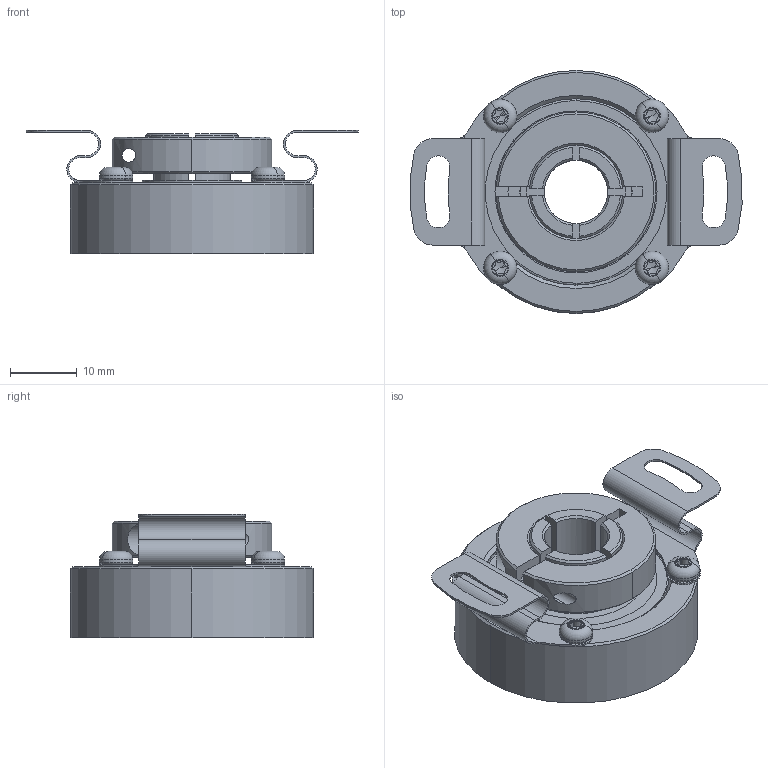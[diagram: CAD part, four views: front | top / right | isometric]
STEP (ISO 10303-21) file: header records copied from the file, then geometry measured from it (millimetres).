
FILE_DESCRIPTION (( 'STEP AP214' ), '1' );
FILE_NAME ('Drawing-UCD-VSS0-Q3A-N.STEP', '2016-10-25T12:01:08', ( '' ), ( '' ), 'SwSTEP 2.0', 'SolidWorks 2015', '' );
FILE_SCHEMA (( 'AUTOMOTIVE_DESIGN' ));
Length unit declared in the file: millimetre
Products named in the file (1): Drawing-UCD-VSS0-Q3A-N
Bounding box: 49.85 x 36.5 x 18.5 mm (x, y, z)
Volume: 10497.8 mm3; surface area: 14533.8 mm2
Topology: 22 solids, 22 shells, 534 faces, 1374 edges, 864 vertices
Faces by surface type: cylinder 195, plane 125, cone 116, bspline 58, torus 40
Entity records: 24907 total; most frequent: CARTESIAN_POINT 5990, DIRECTION 2774, ORIENTED_EDGE 2656, EDGE_CURVE 1328, AXIS2_PLACEMENT_3D 1206, VERTEX_POINT 864, CIRCLE 729, EDGE_LOOP 606
